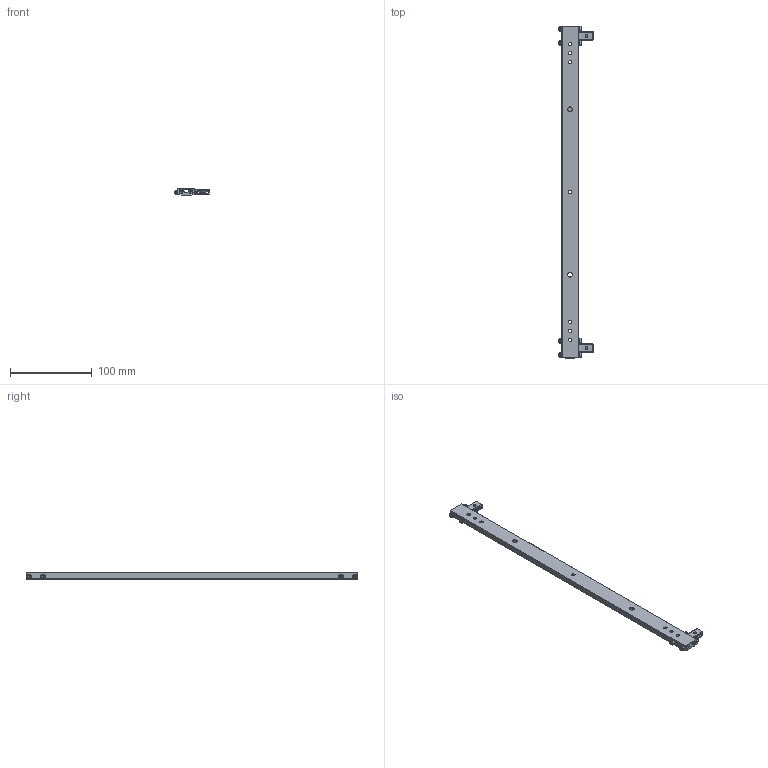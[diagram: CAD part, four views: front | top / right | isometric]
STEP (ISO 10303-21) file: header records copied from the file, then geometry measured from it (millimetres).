
FILE_DESCRIPTION (( 'STEP AP214' ), '1' );
FILE_NAME ('BL-400A.STEP', '2022-07-22T05:44:36', ( '' ), ( '' ), 'SwSTEP 2.0', 'SolidWorks 2020', '' );
FILE_SCHEMA (( 'AUTOMOTIVE_DESIGN' ));
Length unit declared in the file: millimetre
Products named in the file (10): BL-400A; StoperPin; OuterSlide400A; BallBearing; M3.step; PulleyBracketV3; VPulley; StopperScrew; InnerSlide400A; NoHeadScrew
Assembly tree (70 placements, depth 2):
  BL-400A
    InnerSlide400A
    OuterSlide400A
    BallBearing  x42
    StopperScrew  x8
    PulleyBracketV3  x2
    VPulley  x2
    M3.step  x8
    NoHeadScrew  x2
    StoperPin  x4
Bounding box: 42.55 x 406.4 x 8.18 mm (x, y, z)
Volume: 45761.4 mm3; surface area: 51881.6 mm2
Topology: 70 solids, 70 shells, 1382 faces, 3537 edges, 2200 vertices
Faces by surface type: cylinder 584, cone 310, plane 208, bspline 145, sphere 84, torus 51
Entity records: 44505 total; most frequent: CARTESIAN_POINT 32299, ORIENTED_EDGE 2800, DIRECTION 1996, EDGE_CURVE 1400, VERTEX_POINT 900, AXIS2_PLACEMENT_3D 784, EDGE_LOOP 588, ADVANCED_FACE 519
